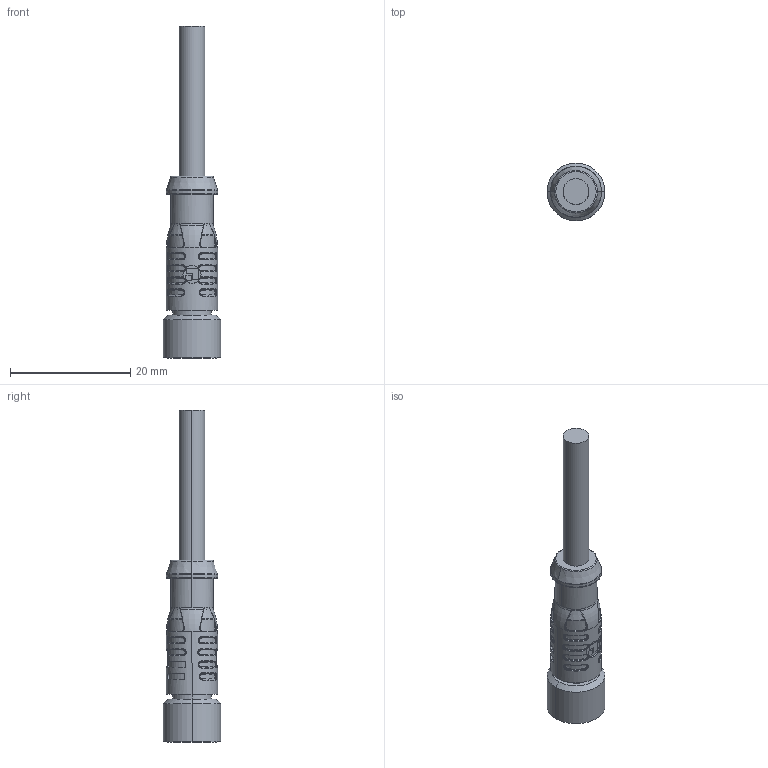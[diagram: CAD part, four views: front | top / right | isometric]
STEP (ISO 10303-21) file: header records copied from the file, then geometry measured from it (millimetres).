
FILE_DESCRIPTION(('Creo Elements/Direct Modeling STEP Export'),'2;1');
FILE_NAME('C:/Data/JobServerData/JobServer Files/8cf62473-fe59-4211-940d-9be8a61ac792/work/output/model.stp','2019-01-22T14:38:31',(''),(''),'PTC Creo Elements/Direct Modeling STEP processor for AP214 (Solid Model)','PTC Creo Elements/Direct Modeling 19.0B 21-Mar-2015 (C) Parametric Technology GmbH','');
FILE_SCHEMA(('AUTOMOTIVE_DESIGN { 1 0 10303 214 1 1 1 1 }'));
Products named in the file (1): 0800_03
Bounding box: 9.6 x 9.6 x 55.2 mm (x, y, z)
Volume: 1887.4 mm3; surface area: 1602.4 mm2
Topology: 1 solids, 1 shells, 460 faces, 1096 edges, 652 vertices
Faces by surface type: bspline 168, cylinder 124, plane 76, torus 76, cone 10, extrusion 6
Entity records: 39973 total; most frequent: CARTESIAN_POINT 31250, ORIENTED_EDGE 2176, DIRECTION 1218, EDGE_CURVE 1088, VERTEX_POINT 652, AXIS2_PLACEMENT_3D 495, EDGE_LOOP 482, FACE_OUTER_BOUND 460
